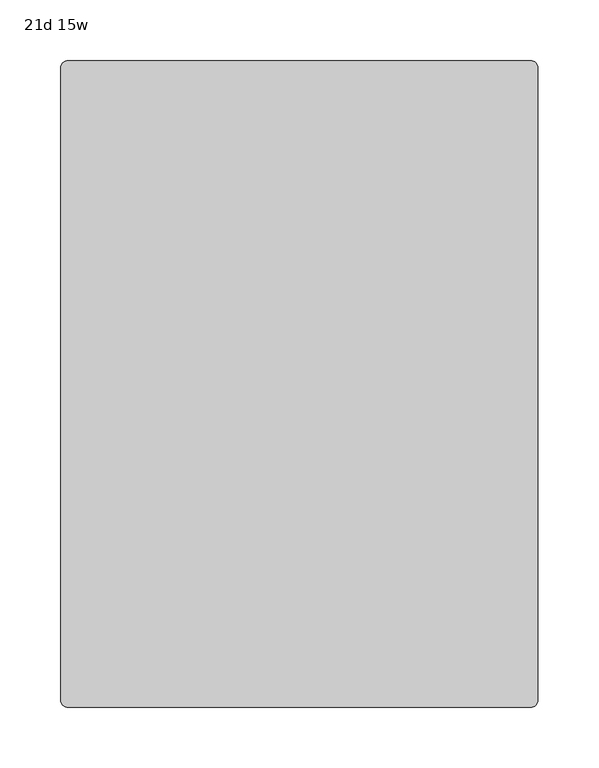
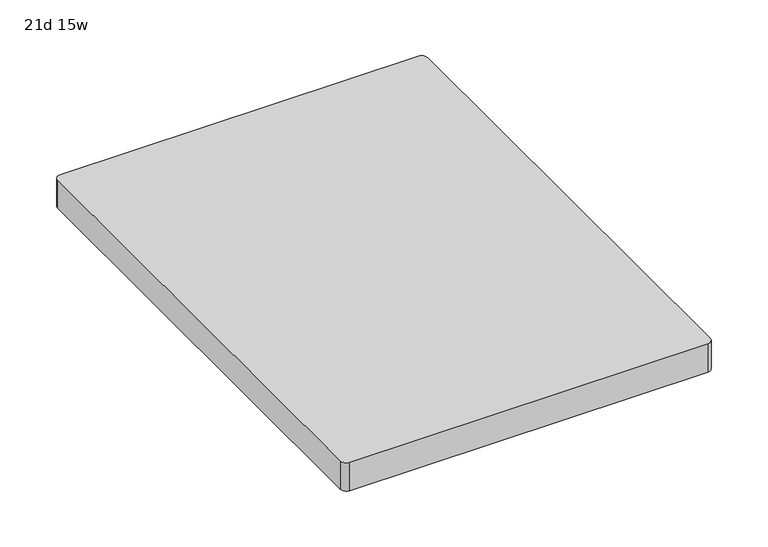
"""IFC4 building model written with IfcOpenShell, lengths in millimetres: furniture geometry, Haworth_Masters_Cushion : 21d 15w."""

from ifc_helpers import new_model, si_unit, point, frame, frame_2d, origin, place, context, project, spatial, polyline, circle_curve, trimmed, segment, composite_curve, outline, extrude, source, transform, mapped, element, save


def furniture_21d_15w_4514f0c1(model_context):
    return source(origin(), model_context, "Body", "SweptSolid", [
        extrude(outline(composite_curve([segment(trimmed(circle_curve(frame_2d((190.5, 260.35)), 6.35), [point((190.5, 266.7))], [point((196.85, 260.35))], False, "CARTESIAN"), True, "CONTINUOUS"), segment(polyline([(196.85, 260.35), (196.85, -260.35)]), True, "CONTINUOUS"), segment(trimmed(circle_curve(frame_2d((190.5, -260.35)), 6.35), [point((196.85, -260.35))], [point((190.5, -266.7))], False, "CARTESIAN"), True, "CONTINUOUS"), segment(polyline([(190.5, -266.7), (-190.5, -266.7)]), True, "CONTINUOUS"), segment(trimmed(circle_curve(frame_2d((-190.5, -260.35)), 6.35), [point((-190.5, -266.7))], [point((-196.85, -260.35))], False, "CARTESIAN"), True, "CONTINUOUS"), segment(polyline([(-196.85, -260.35), (-196.85, 260.35)]), True, "CONTINUOUS"), segment(trimmed(circle_curve(frame_2d((-190.5, 260.35)), 6.35), [point((-196.85, 260.35))], [point((-190.5, 266.7))], False, "CARTESIAN"), True, "CONTINUOUS"), segment(polyline([(-190.5, 266.7), (190.5, 266.7)]), True, "CONTINUOUS")], self_intersect=False)), frame((0.0, 0.0, 787.4), z_axis=(0.0, 0.0, 1.0), x_axis=(1.0, 0.0, 0.0)), (0.0, 0.0, 1.0), 31.75),
    ])


if __name__ == "__main__":
    model = new_model("IFC4")
    model_context = context("Model", 3, world=origin())
    ifc_project = project(units=[si_unit("LENGTHUNIT", "METRE", prefix="MILLI")], contexts=[model_context])
    site = spatial("IfcSite", under=ifc_project)
    building = spatial("IfcBuilding", under=site)
    placement = place(None, origin())
    furniture_21d_15w_shape = furniture_21d_15w_4514f0c1(model_context)
    element("IfcFurniture", 1, ObjectType="Haworth_Masters_Cushion : 21d 15w", at=placement, inside=building, context=model_context, shape_type="MappedRepresentation", body=[
        mapped(furniture_21d_15w_shape, transform((0.0, 0.0, 0.0), x_axis=(1.0, 0.0, 0.0), y_axis=(0.0, 1.0, 0.0), z_axis=(0.0, 0.0, 1.0))),
    ])
    save(model, "model.ifc")
